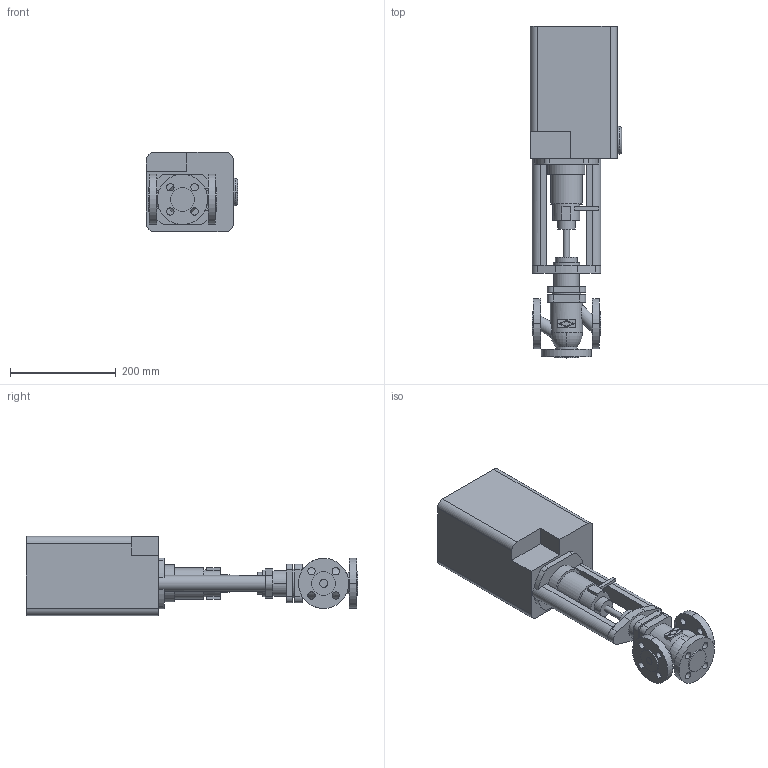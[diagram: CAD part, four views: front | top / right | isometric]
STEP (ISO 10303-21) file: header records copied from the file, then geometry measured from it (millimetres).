
FILE_DESCRIPTION(('OneSpaceDesigner STEP Export'),'2;1');
FILE_NAME('c000000388.stp','2006-09-19T11:46:40',(''),(''),'OneSpace Designer STEP processor for AP214 (Solid Model)','OneSpace Designer 13.20A 18-Aug-2005 (C) CoCreate Software GmbH','');
FILE_SCHEMA(('AUTOMOTIVE_DESIGN { 1 0 10303 214 1 1 1 1 }'));
Length unit declared in the file: millimetre
Products named in the file (2): 1; 2
Bounding box: 173 x 629 x 150 mm (x, y, z)
Volume: 7593011.6 mm3; surface area: 388152 mm2
Topology: 2 solids, 2 shells, 198 faces, 504 edges, 336 vertices
Faces by surface type: cylinder 98, plane 96, torus 4
Entity records: 5700 total; most frequent: CARTESIAN_POINT 1091, ORIENTED_EDGE 1008, DIRECTION 869, EDGE_CURVE 504, VERTEX_POINT 336, AXIS2_PLACEMENT_3D 299, VECTOR 271, LINE 271
